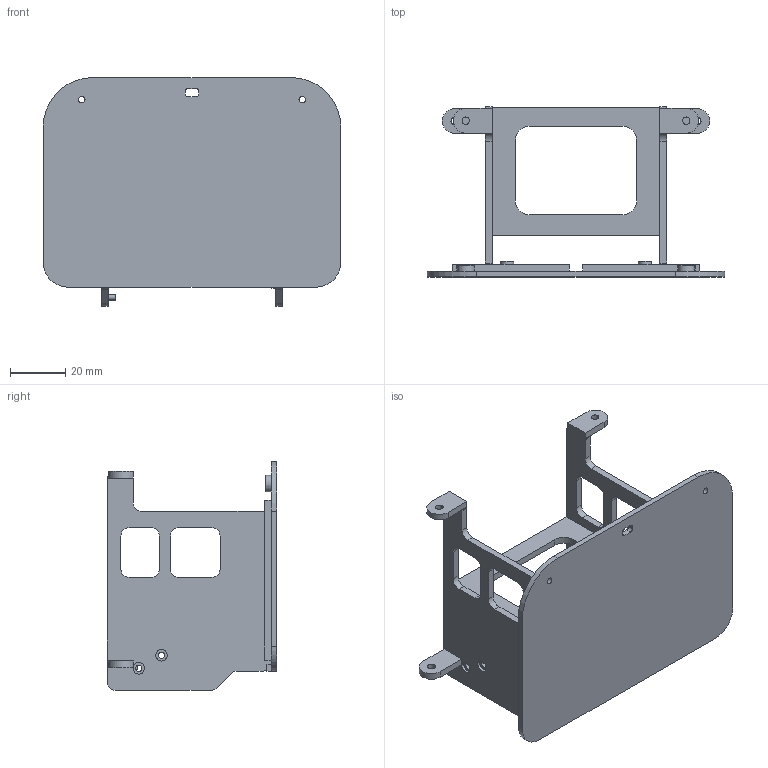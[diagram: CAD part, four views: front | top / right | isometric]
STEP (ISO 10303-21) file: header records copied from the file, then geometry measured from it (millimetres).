
FILE_DESCRIPTION(('Open CASCADE Model'),'2;1');
FILE_NAME('Open CASCADE Shape Model','2026-11-01T16:33:53',('Author'),( 'Open CASCADE'),'Open CASCADE STEP processor 8.0','build123d', 'Unknown');
FILE_SCHEMA(('AUTOMOTIVE_DESIGN { 1 0 10303 214 1 1 1 1 }'));
Length unit declared in the file: millimetre
Products named in the file (1): SOLID
Bounding box: 108 x 61.6 x 83 mm (x, y, z)
Volume: 38057.2 mm3; surface area: 37407.3 mm2
Topology: 1 solids, 1 shells, 195 faces, 540 edges, 360 vertices
Faces by surface type: plane 120, cylinder 75
Full cylindrical faces by diameter (mm): 1.8 x4, 1.9 x2, 2.3 x2, 2.4 x2, 2.7 x4, 4.2 x1, 4.8 x4, 6 x2, 13.2 x1
Entity records: 13235 total; most frequent: CARTESIAN_POINT 2506, DIRECTION 1955, LINE 1112, VECTOR 1112, ORIENTED_EDGE 1080, PCURVE 1080, DEFINITIONAL_REPRESENTATION 1080, EDGE_CURVE 540
